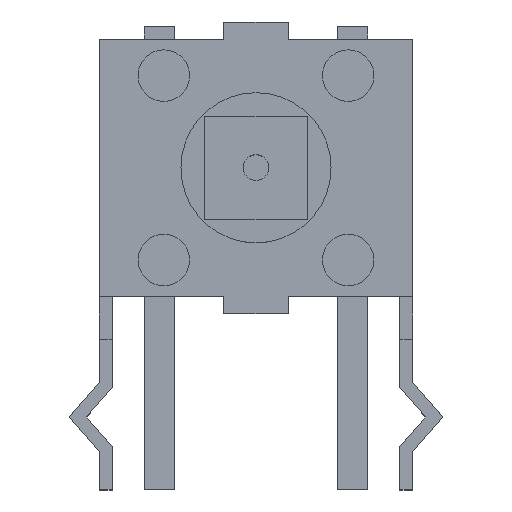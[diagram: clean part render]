
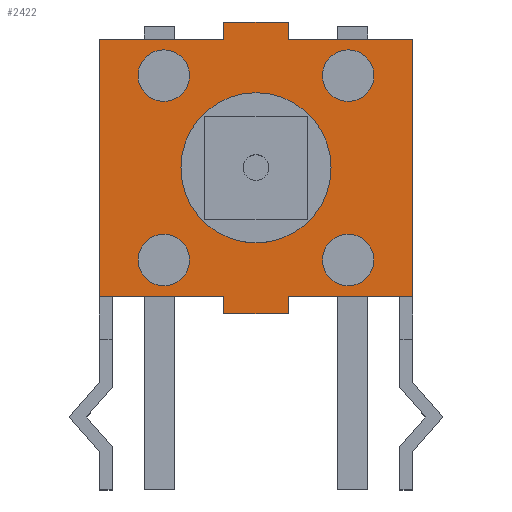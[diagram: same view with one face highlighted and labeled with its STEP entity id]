
A CAD part, top view. The second image highlights one B-rep face of the part: STEP entity #2422.
In plain terms, the highlighted planar face has unit normal (0, 0, 1).
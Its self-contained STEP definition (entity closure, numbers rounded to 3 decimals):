
#36=FACE_BOUND('',#379,.T.);
#37=FACE_BOUND('',#380,.T.);
#38=FACE_BOUND('',#381,.T.);
#39=FACE_BOUND('',#382,.T.);
#40=FACE_BOUND('',#383,.T.);
#118=PLANE('',#2585);
#240=FACE_OUTER_BOUND('',#378,.T.);
#378=EDGE_LOOP('',(#2076,#2077,#2078,#2079,#2080,#2081,#2082,#2083,#2084,
#2085,#2086,#2087));
#379=EDGE_LOOP('',(#2088));
#380=EDGE_LOOP('',(#2089));
#381=EDGE_LOOP('',(#2090));
#382=EDGE_LOOP('',(#2091));
#383=EDGE_LOOP('',(#2092));
#579=LINE('',#3582,#900);
#584=LINE('',#3592,#905);
#592=LINE('',#3608,#913);
#593=LINE('',#3611,#914);
#597=LINE('',#3619,#918);
#621=LINE('',#3667,#942);
#624=LINE('',#3673,#945);
#630=LINE('',#3684,#951);
#680=LINE('',#3786,#1001);
#681=LINE('',#3787,#1002);
#682=LINE('',#3788,#1003);
#683=LINE('',#3789,#1004);
#900=VECTOR('',#2907,1000.);
#905=VECTOR('',#2914,1000.);
#913=VECTOR('',#2926,1000.);
#914=VECTOR('',#2929,1000.);
#918=VECTOR('',#2935,1000.);
#942=VECTOR('',#2963,1000.);
#945=VECTOR('',#2968,1000.);
#951=VECTOR('',#2978,1000.);
#1001=VECTOR('',#3068,1000.);
#1002=VECTOR('',#3069,1000.);
#1003=VECTOR('',#3070,1000.);
#1004=VECTOR('',#3071,1000.);
#1085=CIRCLE('',#2586,0.6);
#1086=CIRCLE('',#2587,0.6);
#1087=CIRCLE('',#2588,0.6);
#1088=CIRCLE('',#2589,0.6);
#1089=CIRCLE('',#2590,1.75);
#1201=VERTEX_POINT('',#3576);
#1203=VERTEX_POINT('',#3580);
#1204=VERTEX_POINT('',#3584);
#1207=VERTEX_POINT('',#3590);
#1210=VERTEX_POINT('',#3600);
#1213=VERTEX_POINT('',#3606);
#1214=VERTEX_POINT('',#3610);
#1217=VERTEX_POINT('',#3618);
#1238=VERTEX_POINT('',#3664);
#1239=VERTEX_POINT('',#3666);
#1241=VERTEX_POINT('',#3672);
#1244=VERTEX_POINT('',#3682);
#1277=VERTEX_POINT('',#3790);
#1278=VERTEX_POINT('',#3792);
#1279=VERTEX_POINT('',#3794);
#1280=VERTEX_POINT('',#3796);
#1281=VERTEX_POINT('',#3798);
#1465=EDGE_CURVE('',#1201,#1203,#579,.T.);
#1470=EDGE_CURVE('',#1207,#1204,#584,.T.);
#1478=EDGE_CURVE('',#1213,#1210,#592,.T.);
#1479=EDGE_CURVE('',#1214,#1201,#593,.T.);
#1483=EDGE_CURVE('',#1204,#1217,#597,.T.);
#1507=EDGE_CURVE('',#1238,#1239,#621,.T.);
#1510=EDGE_CURVE('',#1241,#1210,#624,.T.);
#1516=EDGE_CURVE('',#1238,#1244,#630,.T.);
#1568=EDGE_CURVE('',#1213,#1214,#680,.T.);
#1569=EDGE_CURVE('',#1203,#1239,#681,.T.);
#1570=EDGE_CURVE('',#1217,#1244,#682,.T.);
#1571=EDGE_CURVE('',#1241,#1207,#683,.T.);
#1572=EDGE_CURVE('',#1277,#1277,#1085,.T.);
#1573=EDGE_CURVE('',#1278,#1278,#1086,.T.);
#1574=EDGE_CURVE('',#1279,#1279,#1087,.T.);
#1575=EDGE_CURVE('',#1280,#1280,#1088,.T.);
#1576=EDGE_CURVE('',#1281,#1281,#1089,.T.);
#2076=ORIENTED_EDGE('',*,*,#1510,.T.);
#2077=ORIENTED_EDGE('',*,*,#1478,.F.);
#2078=ORIENTED_EDGE('',*,*,#1568,.T.);
#2079=ORIENTED_EDGE('',*,*,#1479,.T.);
#2080=ORIENTED_EDGE('',*,*,#1465,.T.);
#2081=ORIENTED_EDGE('',*,*,#1569,.T.);
#2082=ORIENTED_EDGE('',*,*,#1507,.F.);
#2083=ORIENTED_EDGE('',*,*,#1516,.T.);
#2084=ORIENTED_EDGE('',*,*,#1570,.F.);
#2085=ORIENTED_EDGE('',*,*,#1483,.F.);
#2086=ORIENTED_EDGE('',*,*,#1470,.F.);
#2087=ORIENTED_EDGE('',*,*,#1571,.F.);
#2088=ORIENTED_EDGE('',*,*,#1572,.F.);
#2089=ORIENTED_EDGE('',*,*,#1573,.F.);
#2090=ORIENTED_EDGE('',*,*,#1574,.F.);
#2091=ORIENTED_EDGE('',*,*,#1575,.F.);
#2092=ORIENTED_EDGE('',*,*,#1576,.F.);
#2422=ADVANCED_FACE('',(#240,#36,#37,#38,#39,#40),#118,.F.);
#2585=AXIS2_PLACEMENT_3D('',#3785,#3066,#3067);
#2586=AXIS2_PLACEMENT_3D('',#3791,#3072,#3073);
#2587=AXIS2_PLACEMENT_3D('',#3793,#3074,#3075);
#2588=AXIS2_PLACEMENT_3D('',#3795,#3076,#3077);
#2589=AXIS2_PLACEMENT_3D('',#3797,#3078,#3079);
#2590=AXIS2_PLACEMENT_3D('',#3799,#3080,#3081);
#2907=DIRECTION('',(-1.,0.,0.));
#2914=DIRECTION('',(-1.,0.,0.));
#2926=DIRECTION('',(0.,-1.,0.));
#2929=DIRECTION('',(0.,-1.,0.));
#2935=DIRECTION('',(0.,-1.,0.));
#2963=DIRECTION('',(-1.,0.,0.));
#2968=DIRECTION('',(-1.,0.,0.));
#2978=DIRECTION('',(0.,-1.,0.));
#3066=DIRECTION('center_axis',(0.,0.,-1.));
#3067=DIRECTION('ref_axis',(0.,1.,0.));
#3068=DIRECTION('',(-1.,0.,0.));
#3069=DIRECTION('',(0.,-1.,0.));
#3070=DIRECTION('',(-1.,0.,0.));
#3071=DIRECTION('',(0.,-1.,0.));
#3072=DIRECTION('center_axis',(0.,0.,1.));
#3073=DIRECTION('ref_axis',(0.,1.,0.));
#3074=DIRECTION('center_axis',(0.,0.,1.));
#3075=DIRECTION('ref_axis',(0.,1.,0.));
#3076=DIRECTION('center_axis',(0.,0.,1.));
#3077=DIRECTION('ref_axis',(0.,1.,0.));
#3078=DIRECTION('center_axis',(0.,0.,1.));
#3079=DIRECTION('ref_axis',(0.,1.,0.));
#3080=DIRECTION('center_axis',(0.,0.,1.));
#3081=DIRECTION('ref_axis',(1.,0.,0.));
#3576=CARTESIAN_POINT('',(-3.,7.,2.25));
#3580=CARTESIAN_POINT('',(-5.9,7.,2.25));
#3582=CARTESIAN_POINT('',(1.4,7.,2.25));
#3584=CARTESIAN_POINT('',(-1.5,1.,2.25));
#3590=CARTESIAN_POINT('',(1.4,1.,2.25));
#3592=CARTESIAN_POINT('',(1.4,1.,2.25));
#3600=CARTESIAN_POINT('',(-1.5,7.,2.25));
#3606=CARTESIAN_POINT('',(-1.5,7.4,2.25));
#3608=CARTESIAN_POINT('',(-1.5,7.,2.25));
#3610=CARTESIAN_POINT('',(-3.,7.4,2.25));
#3611=CARTESIAN_POINT('',(-3.,7.,2.25));
#3618=CARTESIAN_POINT('',(-1.5,0.6,2.25));
#3619=CARTESIAN_POINT('',(-1.5,1.,2.25));
#3664=CARTESIAN_POINT('',(-3.,1.,2.25));
#3666=CARTESIAN_POINT('',(-5.9,1.,2.25));
#3667=CARTESIAN_POINT('',(1.4,1.,2.25));
#3672=CARTESIAN_POINT('',(1.4,7.,2.25));
#3673=CARTESIAN_POINT('',(1.4,7.,2.25));
#3682=CARTESIAN_POINT('',(-3.,0.6,2.25));
#3684=CARTESIAN_POINT('',(-3.,1.,2.25));
#3785=CARTESIAN_POINT('Origin',(1.4,1.,2.25));
#3786=CARTESIAN_POINT('',(-1.5,7.4,2.25));
#3787=CARTESIAN_POINT('',(-5.9,1.,2.25));
#3788=CARTESIAN_POINT('',(-1.5,0.6,2.25));
#3789=CARTESIAN_POINT('',(1.4,1.,2.25));
#3790=CARTESIAN_POINT('',(0.5,1.85,2.25));
#3791=CARTESIAN_POINT('Origin',(-0.1,1.85,2.25));
#3792=CARTESIAN_POINT('',(-3.8,6.15,2.25));
#3793=CARTESIAN_POINT('Origin',(-4.4,6.15,2.25));
#3794=CARTESIAN_POINT('',(-3.8,1.85,2.25));
#3795=CARTESIAN_POINT('Origin',(-4.4,1.85,2.25));
#3796=CARTESIAN_POINT('',(0.5,6.15,2.25));
#3797=CARTESIAN_POINT('Origin',(-0.1,6.15,2.25));
#3798=CARTESIAN_POINT('',(-4.,4.,2.25));
#3799=CARTESIAN_POINT('Origin',(-2.25,4.,2.25));
